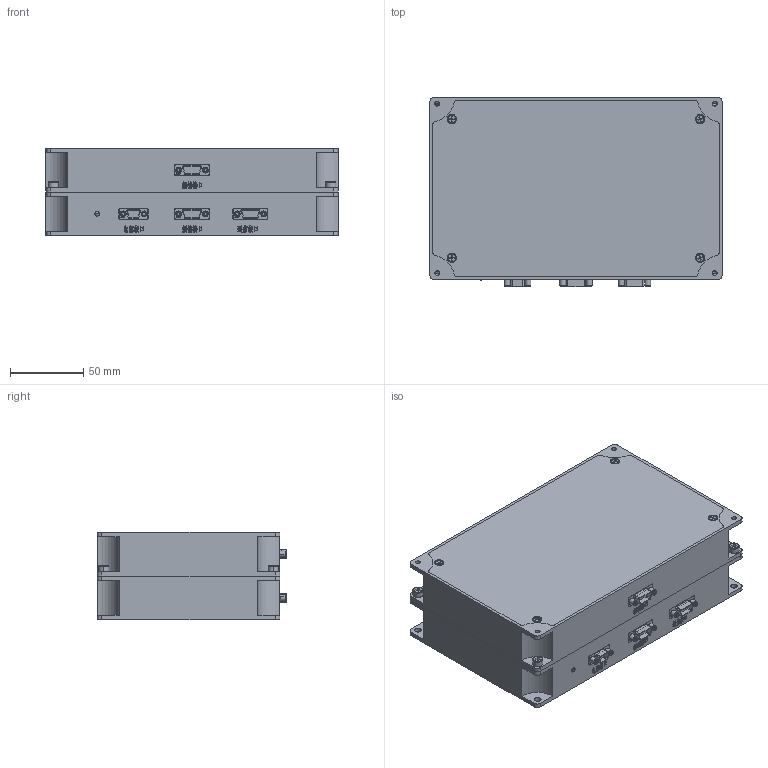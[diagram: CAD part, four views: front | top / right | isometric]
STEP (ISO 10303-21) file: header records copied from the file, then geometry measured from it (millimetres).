
FILE_DESCRIPTION (( 'STEP AP203' ), '1' );
FILE_NAME ('E80.D6S-K蚾饜极.STEP', '2024-10-31T01:30:31', ( 'User' ), ( 'china' ), 'SwSTEP 2.0', 'SolidWorks 2016', '' );
FILE_SCHEMA (( 'CONFIG_CONTROL_DESIGN' ));
Products named in the file (1): E80.D6S-K蚾饜极
Bounding box: 200 x 129.8 x 60 mm (x, y, z)
Surface area: 95471.6 mm2 (no closed solid volume)
Topology: 0 solids, 76 shells, 569 faces, 5686 edges, 5181 vertices
Faces by surface type: plane 317, cylinder 208, cone 24, bspline 10, torus 8, sphere 2
Entity records: 62223 total; most frequent: CARTESIAN_POINT 25217, ORIENTED_EDGE 6772, DIRECTION 6027, EDGE_CURVE 5674, VERTEX_POINT 5179, VECTOR 3725, LINE 3725, B_SPLINE_CURVE_WITH_KNOTS 1358
